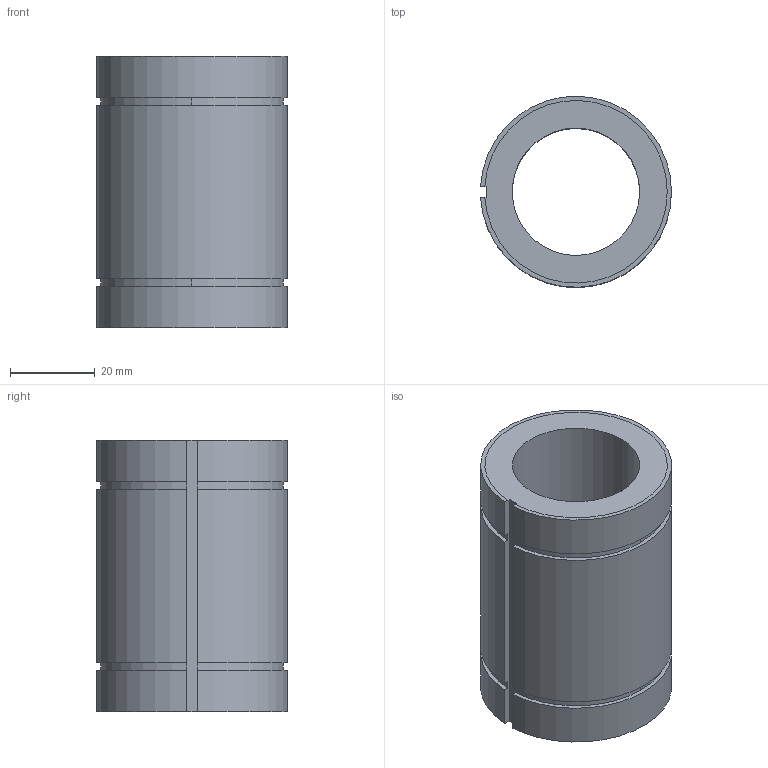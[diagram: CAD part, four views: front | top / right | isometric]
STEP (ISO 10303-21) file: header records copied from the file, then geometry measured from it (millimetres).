
FILE_DESCRIPTION((''),'2;1');
FILE_NAME('C:\Documents and Settings\ｿﾀﾀ蠑ｷ1\ｹﾙﾅﾁ ﾈｭｸ饅\ｺﾎﾇｰﾆﾄﾀﾏ\ﾁｦﾇｰ\LM__UUAJ\LM30UUAJ.stp','2005-06-14T16:26:17',('ｿﾀﾀ蠑ｷ1'),(''),'Autodesk Inventor 9','Autodesk Inventor 9','');
FILE_SCHEMA(('AUTOMOTIVE_DESIGN { 1 0 10303 214 1 1 1 1 }'));
Length unit declared in the file: millimetre
Products named in the file (1): LM__AJ
Bounding box: 44.97 x 44.98 x 64 mm (x, y, z)
Volume: 55808.3 mm3; surface area: 17539.1 mm2
Topology: 1 solids, 1 shells, 25 faces, 70 edges, 47 vertices
Faces by surface type: cylinder 14, plane 11
Entity records: 850 total; most frequent: DIRECTION 153, CARTESIAN_POINT 143, ORIENTED_EDGE 140, EDGE_CURVE 70, AXIS2_PLACEMENT_3D 57, VERTEX_POINT 47, VECTOR 39, LINE 39
